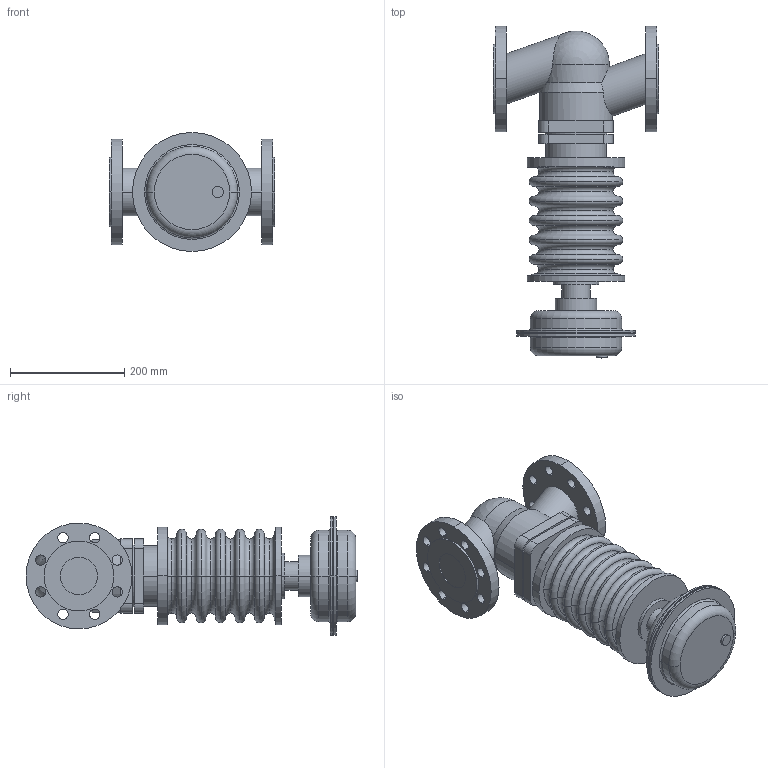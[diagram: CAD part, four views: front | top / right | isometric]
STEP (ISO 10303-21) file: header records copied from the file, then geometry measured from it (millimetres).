
FILE_DESCRIPTION(('OneSpaceDesigner STEP Export'),'2;1');
FILE_NAME('c000000563.stp','2006-08-30T 9:25:08',(''),(''),'OneSpace Designer STEP processor for AP203 (Solid Model)','OneSpace Designer 13.20A 18-Aug-2005 (C) CoCreate Software GmbH','');
FILE_SCHEMA(('CONFIG_CONTROL_DESIGN'));
Length unit declared in the file: millimetre
Products named in the file (1): 2
Bounding box: 290 x 580.5 x 208 mm (x, y, z)
Volume: 9869690.3 mm3; surface area: 579014.6 mm2
Topology: 1 solids, 1 shells, 192 faces, 453 edges, 286 vertices
Faces by surface type: cylinder 86, torus 54, plane 48, cone 2, sphere 2
Entity records: 5053 total; most frequent: CARTESIAN_POINT 1021, ORIENTED_EDGE 902, DIRECTION 730, EDGE_CURVE 451, AXIS2_PLACEMENT_3D 293, VERTEX_POINT 286, EDGE_LOOP 249, FACE_OUTER_BOUND 192
